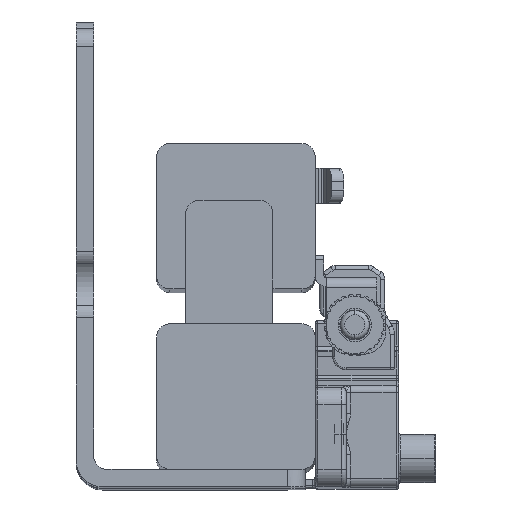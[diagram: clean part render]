
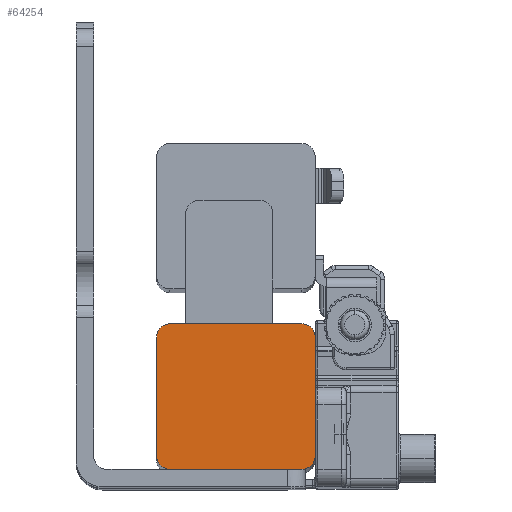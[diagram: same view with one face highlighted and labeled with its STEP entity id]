
A CAD part, top view. The second image highlights one B-rep face of the part: STEP entity #64254.
In plain terms, the highlighted planar face has unit normal (0, 0, 1).
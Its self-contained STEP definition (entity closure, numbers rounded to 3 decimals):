
#949 = DIRECTION ( 'NONE',  ( 0., 0., -1. ) ) ;
#3597 = CIRCLE ( 'NONE', #75902, 1.5 ) ;
#5662 = VECTOR ( 'NONE', #30835, 1000. ) ;
#6670 = LINE ( 'NONE', #24692, #67800 ) ;
#8055 = DIRECTION ( 'NONE',  ( 0., -1., 0. ) ) ;
#8710 = EDGE_CURVE ( 'NONE', #25029, #48392, #76923, .T. ) ;
#8898 = EDGE_CURVE ( 'NONE', #42653, #56329, #76927, .T. ) ;
#12929 = ORIENTED_EDGE ( 'NONE', *, *, #52567, .T. ) ;
#13033 = CIRCLE ( 'NONE', #63930, 1.5 ) ;
#14507 = VERTEX_POINT ( 'NONE', #19576 ) ;
#15675 = AXIS2_PLACEMENT_3D ( 'NONE', #80013, #67422, #8055 ) ;
#17328 = DIRECTION ( 'NONE',  ( -1., 0., 0. ) ) ;
#18786 = DIRECTION ( 'NONE',  ( -1., 0., 0. ) ) ;
#18906 = CARTESIAN_POINT ( 'NONE',  ( -265.637, 86.156, 250.994 ) ) ;
#18996 = LINE ( 'NONE', #76030, #75020 ) ;
#19576 = CARTESIAN_POINT ( 'NONE',  ( -280.637, 86.156, 250.994 ) ) ;
#20739 = CARTESIAN_POINT ( 'NONE',  ( -264.137, 84.656, 250.994 ) ) ;
#22009 = VECTOR ( 'NONE', #31196, 1000. ) ;
#22567 = ORIENTED_EDGE ( 'NONE', *, *, #8898, .T. ) ;
#24250 = DIRECTION ( 'NONE',  ( 0., 0., -1. ) ) ;
#24692 = CARTESIAN_POINT ( 'NONE',  ( -264.137, 69.656, 250.994 ) ) ;
#25029 = VERTEX_POINT ( 'NONE', #73816 ) ;
#25082 = DIRECTION ( 'NONE',  ( 0., 0., -1. ) ) ;
#25722 = CARTESIAN_POINT ( 'NONE',  ( -265.637, 69.656, 250.994 ) ) ;
#25779 = CARTESIAN_POINT ( 'NONE',  ( -282.137, 69.656, 250.994 ) ) ;
#25959 = CARTESIAN_POINT ( 'NONE',  ( -282.137, 84.656, 250.994 ) ) ;
#29177 = AXIS2_PLACEMENT_3D ( 'NONE', #32806, #37851, #52132 ) ;
#30835 = DIRECTION ( 'NONE',  ( 1., 0., 0. ) ) ;
#31196 = DIRECTION ( 'NONE',  ( 0., -1., 0. ) ) ;
#32806 = CARTESIAN_POINT ( 'NONE',  ( -280.637, 84.656, 250.994 ) ) ;
#34138 = VERTEX_POINT ( 'NONE', #18906 ) ;
#37851 = DIRECTION ( 'NONE',  ( 0., 0., -1. ) ) ;
#38539 = DIRECTION ( 'NONE',  ( 0., 1., 0. ) ) ;
#42009 = CARTESIAN_POINT ( 'NONE',  ( -282.137, 71.156, 250.994 ) ) ;
#42465 = EDGE_CURVE ( 'NONE', #25029, #65303, #6670, .T. ) ;
#42653 = VERTEX_POINT ( 'NONE', #25959 ) ;
#44614 = DIRECTION ( 'NONE',  ( -1., 0., 0. ) ) ;
#46251 = FACE_OUTER_BOUND ( 'NONE', #63146, .T. ) ;
#46515 = ORIENTED_EDGE ( 'NONE', *, *, #63659, .F. ) ;
#48392 = VERTEX_POINT ( 'NONE', #25722 ) ;
#50221 = ORIENTED_EDGE ( 'NONE', *, *, #72952, .F. ) ;
#52132 = DIRECTION ( 'NONE',  ( -1., 0., 0. ) ) ;
#52567 = EDGE_CURVE ( 'NONE', #62440, #48392, #61492, .T. ) ;
#56329 = VERTEX_POINT ( 'NONE', #42009 ) ;
#56801 = ORIENTED_EDGE ( 'NONE', *, *, #8710, .F. ) ;
#57996 = CARTESIAN_POINT ( 'NONE',  ( -265.637, 84.656, 250.994 ) ) ;
#58209 = ORIENTED_EDGE ( 'NONE', *, *, #81937, .T. ) ;
#58742 = CIRCLE ( 'NONE', #29177, 1.5 ) ;
#59497 = AXIS2_PLACEMENT_3D ( 'NONE', #82926, #24250, #63227 ) ;
#59741 = ORIENTED_EDGE ( 'NONE', *, *, #42465, .T. ) ;
#61492 = LINE ( 'NONE', #62719, #5662 ) ;
#62440 = VERTEX_POINT ( 'NONE', #69535 ) ;
#62719 = CARTESIAN_POINT ( 'NONE',  ( -264.137, 69.656, 250.994 ) ) ;
#63146 = EDGE_LOOP ( 'NONE', ( #46515, #58209, #66900, #22567, #50221, #12929, #56801, #59741 ) ) ;
#63227 = DIRECTION ( 'NONE',  ( -1., 0., 0. ) ) ;
#63659 = EDGE_CURVE ( 'NONE', #34138, #65303, #3597, .T. ) ;
#63930 = AXIS2_PLACEMENT_3D ( 'NONE', #70369, #25082, #18786 ) ;
#64254 = ADVANCED_FACE ( 'NONE', ( #46251 ), #67021, .F. ) ;
#65303 = VERTEX_POINT ( 'NONE', #20739 ) ;
#66900 = ORIENTED_EDGE ( 'NONE', *, *, #74952, .F. ) ;
#67021 = PLANE ( 'NONE',  #15675 ) ;
#67422 = DIRECTION ( 'NONE',  ( 0., 0., -1. ) ) ;
#67800 = VECTOR ( 'NONE', #38539, 1000. ) ;
#69535 = CARTESIAN_POINT ( 'NONE',  ( -280.637, 69.656, 250.994 ) ) ;
#70369 = CARTESIAN_POINT ( 'NONE',  ( -280.637, 71.156, 250.994 ) ) ;
#72952 = EDGE_CURVE ( 'NONE', #62440, #56329, #13033, .T. ) ;
#73816 = CARTESIAN_POINT ( 'NONE',  ( -264.137, 71.156, 250.994 ) ) ;
#74952 = EDGE_CURVE ( 'NONE', #42653, #14507, #58742, .T. ) ;
#75020 = VECTOR ( 'NONE', #17328, 1000. ) ;
#75902 = AXIS2_PLACEMENT_3D ( 'NONE', #57996, #949, #44614 ) ;
#76030 = CARTESIAN_POINT ( 'NONE',  ( -282.137, 86.156, 250.994 ) ) ;
#76923 = CIRCLE ( 'NONE', #59497, 1.5 ) ;
#76927 = LINE ( 'NONE', #25779, #22009 ) ;
#80013 = CARTESIAN_POINT ( 'NONE',  ( -265.627, 71.146, 250.994 ) ) ;
#81937 = EDGE_CURVE ( 'NONE', #34138, #14507, #18996, .T. ) ;
#82926 = CARTESIAN_POINT ( 'NONE',  ( -265.637, 71.156, 250.994 ) ) ;
